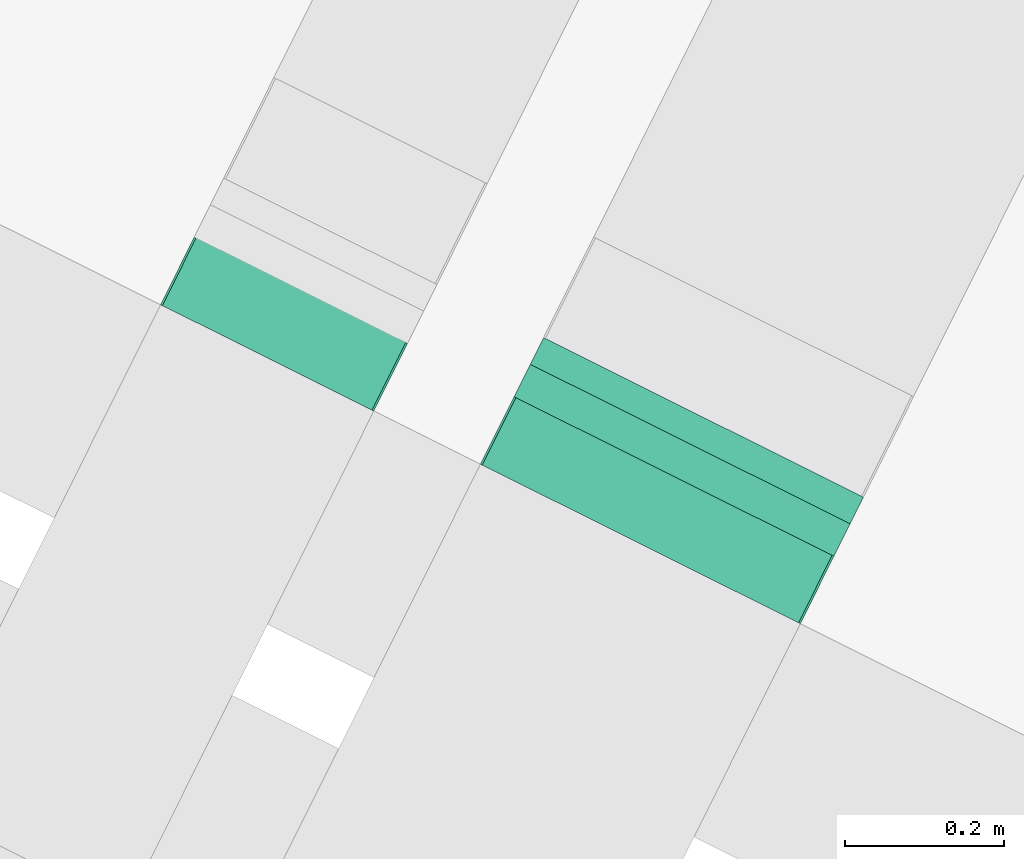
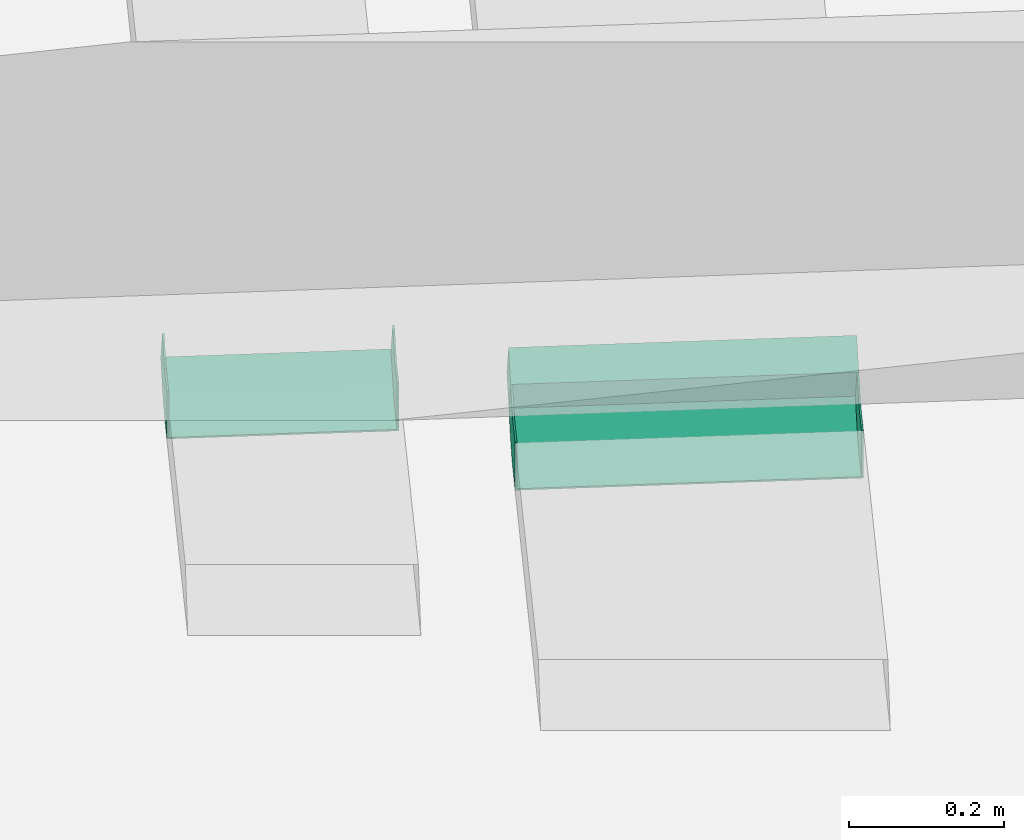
# One storey, part 81 of 91: 2 flow fittings, 1 flow segment.
"""IFC2X3 building model written with IfcOpenShell, lengths in metres."""

from ifc_helpers import new_model, entity, si_unit, converted_unit, derived_unit, direction, frame, frame_2d, origin, place, context, subcontext, project, spatial, rectangle, extrude, faceted_brep, source, transform, mapped, type_object, type_shapes, element, save


model = new_model("IFC2X3")

# Units and contexts
model_context = context("Model", 3, precision=1e-05, world=origin(), true_north=direction((0.894925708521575, 0.446215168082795)))
context_of_model = context(None, 3, precision=1e-05, world=origin(), true_north=direction((0.894925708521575, 0.446215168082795)))
body_context = subcontext(model_context, "Body", "Model", "MODEL_VIEW")
ifc_project = project(units=[si_unit("LENGTHUNIT", "METRE"), si_unit("AREAUNIT", "SQUARE_METRE"), si_unit("VOLUMEUNIT", "CUBIC_METRE"), converted_unit("PLANEANGLEUNIT", "DEGREE", entity("IfcRatioMeasure", 0.0174532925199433), si_unit("PLANEANGLEUNIT", "RADIAN"), dimensions=[0, 0, 0, 0, 0, 0, 0]), si_unit("MASSUNIT", "GRAM", prefix="KILO"), si_unit("TIMEUNIT", "SECOND"), si_unit("FREQUENCYUNIT", "HERTZ"), si_unit("THERMODYNAMICTEMPERATUREUNIT", "DEGREE_CELSIUS"), derived_unit("THERMALTRANSMITTANCEUNIT", [(si_unit("MASSUNIT", "GRAM", prefix="KILO"), 1), (si_unit("THERMODYNAMICTEMPERATUREUNIT", "KELVIN"), -1), (si_unit("TIMEUNIT", "SECOND"), -3)]), derived_unit("VOLUMETRICFLOWRATEUNIT", [(si_unit("LENGTHUNIT", "METRE"), 3), (si_unit("TIMEUNIT", "SECOND"), -1)]), si_unit("ELECTRICCURRENTUNIT", "AMPERE"), si_unit("ELECTRICVOLTAGEUNIT", "VOLT"), si_unit("POWERUNIT", "WATT"), si_unit("FORCEUNIT", "NEWTON", prefix="KILO"), si_unit("ILLUMINANCEUNIT", "LUX"), si_unit("LUMINOUSFLUXUNIT", "LUMEN"), si_unit("LUMINOUSINTENSITYUNIT", "CANDELA"), si_unit("PRESSUREUNIT", "PASCAL")], contexts=[model_context, context_of_model])

# Site, building, storey
site_placement = place(None, frame((218.228324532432, 584.720189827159, 0.0), z_axis=(0.0, 0.0, 1.0), x_axis=(0.446215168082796, 0.894925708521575, 0.0)))
site = spatial("IfcSite", under=ifc_project, at=site_placement, Name="Default", CompositionType="ELEMENT")
building_placement = place(site_placement, origin())
building = spatial("IfcBuilding", under=site, at=building_placement, CompositionType="ELEMENT")
storey_placement = place(building_placement, origin())
storey = spatial("IfcBuildingStorey", under=building, at=storey_placement, Name="0 - Piano Terra", CompositionType="ELEMENT", Elevation=0.0)

# Flow segment
cable_carrier_segment_type = type_object("IfcCableCarrierSegmentType", Name="Passerella con raccordi:Passerella canale", PredefinedType="NOTDEFINED")
flow_segment_placement = place(storey_placement, frame((11.5890862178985, -4.20107899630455, 3.59822448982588)))
element("IfcFlowSegment", 1, at=flow_segment_placement, inside=storey, type_object=cable_carrier_segment_type, Name="Passerella con raccordi:Passerella canale", ObjectType="Passerella con raccordi:Passerella canale", context=body_context, shape_type="SweptSolid", body=[
    extrude(rectangle(XDim=0.0750000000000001, YDim=0.0527002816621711, at=frame_2d((0.0, 0.0), x_axis=(0.0, 1.0))), frame((0.0415698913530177, 0.0, 0.0456510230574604), z_axis=(0.0, 1.0, 0.0), x_axis=(0.866025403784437, 0.0, 0.500000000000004)), (0.0, 0.0, 1.0), 0.449999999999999),
])

# Flow fittings
cable_carrier_fitting_type_1 = type_object("IfcCableCarrierFittingType", Name="Standard", PredefinedType="NOTDEFINED")
shared_shape_1 = source(origin(), body_context, "Body", "Brep", [
    faceted_brep([(-0.0608988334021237, -0.0349600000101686, -0.147460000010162), (-0.0608988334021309, 0.0374999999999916, -0.147460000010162), (-0.0608988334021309, 0.0374999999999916, -0.150000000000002), (-0.0608988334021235, -0.0375000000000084, -0.150000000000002), (-0.0608988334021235, -0.0375000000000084, 0.149999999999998), (-0.0608988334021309, 0.0374999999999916, 0.149999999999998), (-0.0608988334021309, 0.0374999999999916, 0.147460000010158), (-0.0608988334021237, -0.0349600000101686, 0.147460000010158), (0.0339899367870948, 0.0629253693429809, -0.150000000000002), (0.0339899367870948, 0.0629253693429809, -0.147460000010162), (0.0702199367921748, 0.000173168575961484, -0.147460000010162), (0.0702199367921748, 0.000173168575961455, 0.147460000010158), (0.0339899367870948, 0.0629253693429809, 0.147460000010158), (0.0339899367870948, 0.0629253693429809, 0.149999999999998), (0.0714899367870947, -0.00202653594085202, 0.149999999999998), (0.0714899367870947, -0.00202653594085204, -0.150000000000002), (-0.0108988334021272, -0.0375000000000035, 0.149999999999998), (0.00933434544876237, -0.0348362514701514, 0.149999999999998), (0.0281886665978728, -0.027026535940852, 0.149999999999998), (-0.00931133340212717, 0.0379253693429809, 0.149999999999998), (-0.0100770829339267, 0.0376081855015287, 0.149999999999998), (-0.0108988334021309, 0.0374999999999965, 0.149999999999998), (-0.0108988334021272, -0.0375000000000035, -0.150000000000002), (-0.0108988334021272, -0.0375000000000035, -0.00436238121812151), (-0.0108988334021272, 0.0374999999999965, -0.150000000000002), (-0.0100770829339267, 0.0376081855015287, -0.150000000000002), (-0.00931133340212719, 0.037925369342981, -0.150000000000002), (0.0281886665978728, -0.027026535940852, -0.150000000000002), (0.00933434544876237, -0.0348362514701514, -0.150000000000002), (-0.0108988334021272, 0.0374999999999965, -0.147460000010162), (-0.0108988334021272, 0.0374999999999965, 0.147460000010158), (-0.0108988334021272, -0.0349600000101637, -0.147460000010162), (0.00867694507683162, -0.0323827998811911, -0.147460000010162), (0.0269186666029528, -0.0248268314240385, -0.147460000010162), (-0.00931133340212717, 0.0379253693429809, -0.147460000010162), (-0.0100770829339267, 0.0376081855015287, -0.147460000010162), (-0.0108988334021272, -0.0349600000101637, 0.147460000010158), (-0.0108988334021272, -0.0349600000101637, -0.00437396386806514), (-0.0100770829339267, 0.0376081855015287, 0.147460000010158), (-0.00931133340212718, 0.0379253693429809, 0.147460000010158), (0.0269186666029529, -0.0248268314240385, 0.147460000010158), (0.00867694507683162, -0.0323827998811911, 0.147460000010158), (0.00517118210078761, -0.0358304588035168, 0.0), (0.0281886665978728, -0.027026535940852, -0.00436237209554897), (0.00483151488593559, -0.0333061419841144, 0.0), (0.0269186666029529, -0.0248268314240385, -0.00437395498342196)], [[[0, 1, 2, 3, 4, 5, 6, 7]], [[8, 9, 10, 11, 12, 13, 14, 15]], [[4, 16, 17, 18, 14, 13, 19, 20, 21, 5]], [[4, 3, 22, 23, 16]], [[2, 24, 25, 26, 8, 15, 27, 28, 22, 3]], [[2, 1, 29, 24]], [[6, 5, 21, 30]], [[0, 31, 32, 33, 10, 9, 34, 35, 29, 1]], [[0, 7, 36, 37, 31]], [[6, 30, 38, 39, 12, 11, 40, 41, 36, 7]], [[16, 23, 22, 42]], [[43, 28, 27]], [[43, 18, 17]], [[42, 22, 28]], [[43, 17, 42]], [[43, 42, 28]], [[16, 42, 17]], [[29, 35, 25, 24]], [[20, 38, 30, 21]], [[34, 26, 25, 35]], [[19, 39, 38, 20]], [[44, 31, 37, 36]], [[33, 32, 45]], [[41, 40, 45]], [[32, 31, 44]], [[44, 41, 45]], [[32, 44, 45]], [[41, 44, 36]], [[15, 14, 18, 43, 27]], [[26, 34, 9, 8]], [[39, 19, 13, 12]], [[11, 10, 33, 45, 40]]]),
])
type_shapes(cable_carrier_fitting_type_1, [shared_shape_1])
flow_fitting_1_placement = place(storey_placement, frame((11.5550962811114, -3.45107899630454, 3.70025102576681), z_axis=(0.0, -1.0, 0.0), x_axis=(1.0, 0.0, 0.0)))
element("IfcFlowFitting", 2, at=flow_fitting_1_placement, inside=storey, type_object=cable_carrier_fitting_type_1, Name="M_Curvatura interna verticale canale:Standard", ObjectType="Standard", context=body_context, shape_type="MappedRepresentation", body=[
    mapped(shared_shape_1, transform((0.0, 0.0, 0.0), scale=1.0)),
])
cable_carrier_fitting_type_2 = type_object("IfcCableCarrierFittingType", Name="Standard", PredefinedType="NOTDEFINED")
shared_shape_2 = source(origin(), body_context, "Body", "Brep", [
    faceted_brep([(-0.0608988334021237, -0.0349600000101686, -0.222460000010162), (-0.0608988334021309, 0.0374999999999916, -0.222460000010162), (-0.0608988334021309, 0.0374999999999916, -0.225000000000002), (-0.0608988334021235, -0.0375000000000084, -0.225000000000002), (-0.0608988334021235, -0.0375000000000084, 0.224999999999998), (-0.0608988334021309, 0.0374999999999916, 0.224999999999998), (-0.0608988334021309, 0.0374999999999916, 0.222460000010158), (-0.0608988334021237, -0.0349600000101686, 0.222460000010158), (0.0339899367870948, 0.0629253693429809, -0.225000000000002), (0.0339899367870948, 0.0629253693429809, -0.222460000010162), (0.0702199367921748, 0.00017316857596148, -0.222460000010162), (0.0702199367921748, 0.000173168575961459, 0.222460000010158), (0.0339899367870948, 0.0629253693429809, 0.222460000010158), (0.0339899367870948, 0.0629253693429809, 0.224999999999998), (0.0714899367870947, -0.00202653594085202, 0.224999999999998), (0.0714899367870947, -0.00202653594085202, -0.225000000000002), (-0.0108988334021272, -0.0375000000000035, 0.224999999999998), (0.00933434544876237, -0.0348362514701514, 0.224999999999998), (0.0281886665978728, -0.027026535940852, 0.224999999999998), (-0.00931133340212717, 0.0379253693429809, 0.224999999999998), (-0.0100770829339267, 0.0376081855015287, 0.224999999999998), (-0.0108988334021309, 0.0374999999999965, 0.224999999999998), (-0.0108988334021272, -0.0375000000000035, -0.225000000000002), (-0.0108988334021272, -0.0375000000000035, -0.0837247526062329), (-0.0108988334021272, -0.0375000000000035, 0.0706376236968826), (-0.0108988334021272, 0.0374999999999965, -0.225000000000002), (-0.0100770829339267, 0.0376081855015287, -0.225000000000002), (-0.00931133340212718, 0.0379253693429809, -0.225000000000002), (0.0281886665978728, -0.027026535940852, -0.225000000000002), (0.00933434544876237, -0.0348362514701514, -0.225000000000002), (-0.0108988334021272, 0.0374999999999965, -0.222460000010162), (-0.0108988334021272, 0.0374999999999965, 0.222460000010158), (-0.0108988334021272, -0.0349600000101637, -0.222460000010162), (0.00867694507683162, -0.0323827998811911, -0.222460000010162), (0.0269186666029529, -0.0248268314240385, -0.222460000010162), (-0.00931133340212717, 0.0379253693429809, -0.222460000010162), (-0.0100770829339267, 0.0376081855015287, -0.222460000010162), (-0.0108988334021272, -0.0349600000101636, 0.222460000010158), (-0.0108988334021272, -0.0349600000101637, 0.0706260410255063), (-0.0108988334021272, -0.0349600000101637, -0.0812079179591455), (-0.0100770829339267, 0.0376081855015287, 0.222460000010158), (-0.00931133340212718, 0.0379253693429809, 0.222460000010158), (0.0269186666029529, -0.0248268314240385, 0.222460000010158), (0.00867694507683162, -0.0323827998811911, 0.222460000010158), (0.0281886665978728, -0.027026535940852, -0.0837247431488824), (0.0281886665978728, -0.027026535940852, 0.0706376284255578), (0.00933434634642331, -0.0348362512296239, -0.00654356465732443), (0.0269186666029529, -0.0248268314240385, -0.0812079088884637), (0.0269186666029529, -0.0248268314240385, 0.0706260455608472), (0.00867694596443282, -0.0323827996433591, -0.00529093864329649)], [[[0, 1, 2, 3, 4, 5, 6, 7]], [[8, 9, 10, 11, 12, 13, 14, 15]], [[4, 16, 17, 18, 14, 13, 19, 20, 21, 5]], [[4, 3, 22, 23, 24, 16]], [[2, 25, 26, 27, 8, 15, 28, 29, 22, 3]], [[2, 1, 30, 25]], [[6, 5, 21, 31]], [[0, 32, 33, 34, 10, 9, 35, 36, 30, 1]], [[0, 7, 37, 38, 39, 32]], [[6, 31, 40, 41, 12, 11, 42, 43, 37, 7]], [[44, 29, 28]], [[18, 17, 45]], [[46, 44, 45]], [[17, 16, 24]], [[29, 23, 22]], [[29, 46, 23]], [[24, 46, 17]], [[46, 29, 44]], [[45, 17, 46]], [[23, 46, 24]], [[30, 36, 26, 25]], [[20, 40, 31, 21]], [[35, 27, 26, 36]], [[19, 41, 40, 20]], [[34, 33, 47]], [[48, 43, 42]], [[48, 47, 49]], [[38, 37, 43]], [[32, 39, 33]], [[39, 49, 33]], [[43, 49, 38]], [[47, 33, 49]], [[49, 43, 48]], [[38, 49, 39]], [[15, 14, 18, 45, 44, 28]], [[27, 35, 9, 8]], [[41, 19, 13, 12]], [[11, 10, 34, 47, 48, 42]]]),
])
type_shapes(cable_carrier_fitting_type_2, [shared_shape_2])
flow_fitting_2_placement = place(storey_placement, frame((11.5550962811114, -3.97607899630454, 3.60025102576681), z_axis=(0.0, -1.0, 0.0), x_axis=(1.0, 0.0, 0.0)))
element("IfcFlowFitting", 3, at=flow_fitting_2_placement, inside=storey, type_object=cable_carrier_fitting_type_2, Name="M_Curvatura interna verticale canale:Standard", ObjectType="Standard", context=body_context, shape_type="MappedRepresentation", body=[
    mapped(shared_shape_2, transform((0.0, 0.0, 0.0), scale=1.0)),
])

save(model, "model.ifc")
